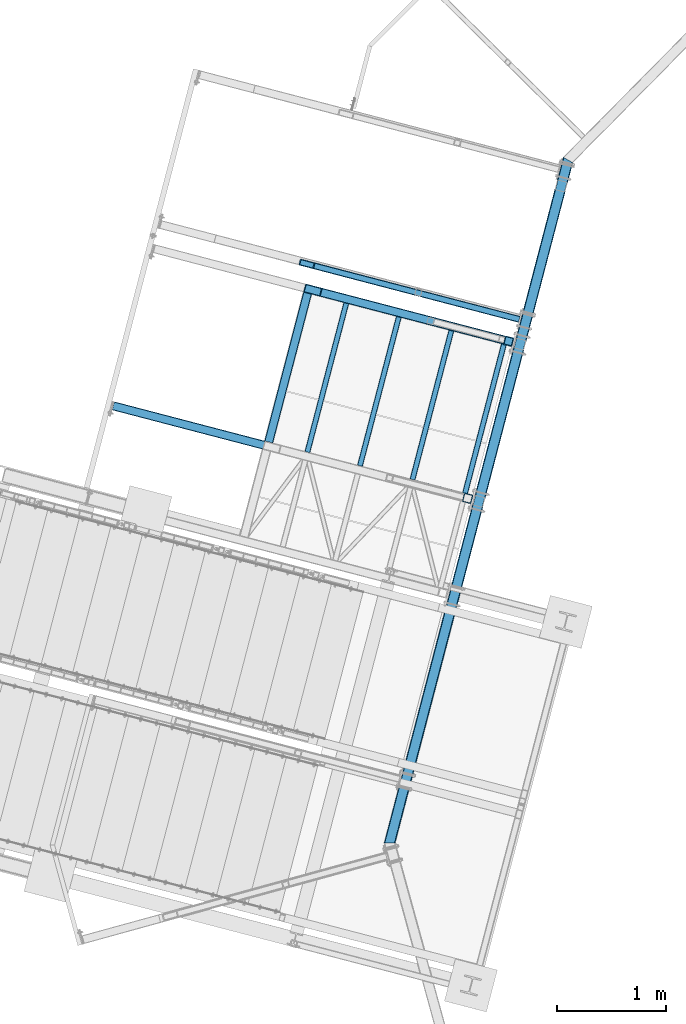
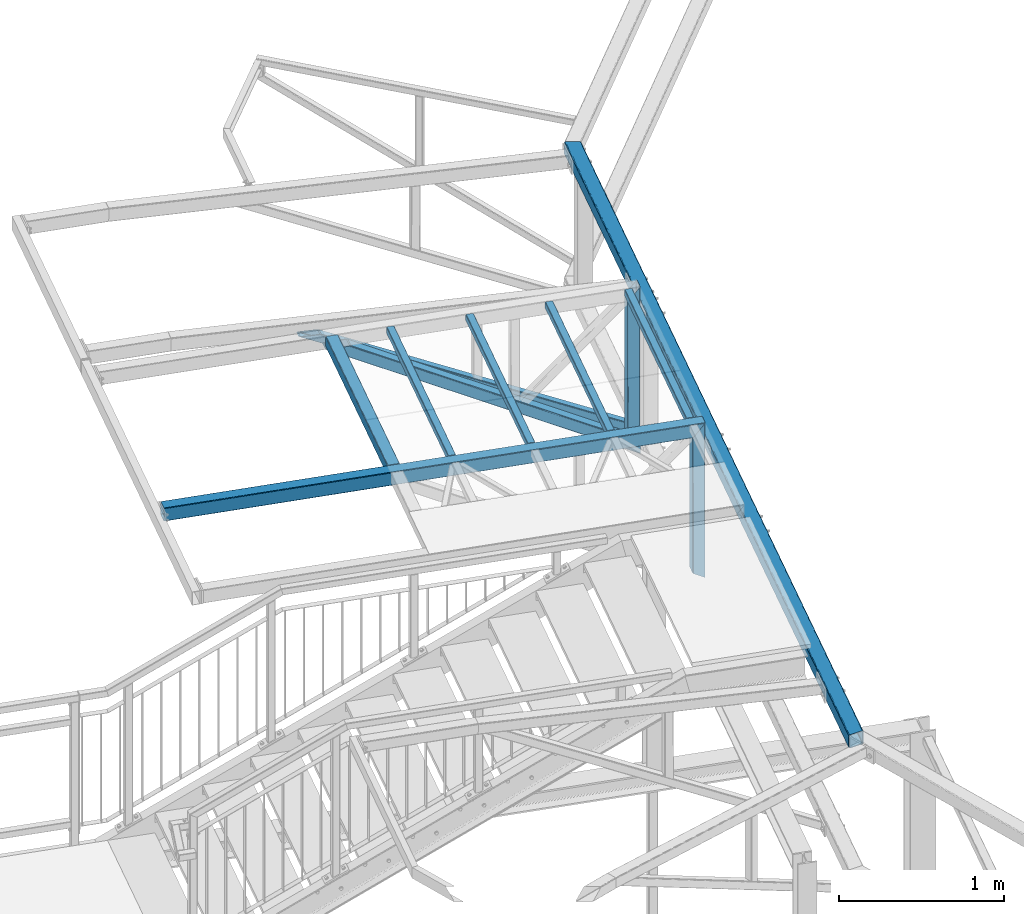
# One storey, part 48 of 169: 11 discrete accessories, 3 elements without a shape of their own.
"""IFC2X3 building model written with IfcOpenShell, lengths in millimetres."""

from ifc_helpers import new_model, si_unit, frame, origin_with_axes, origin_2d_with_axis, place, context, subcontext, project, spatial, hollow_rectangle, extrude, clip, halfspace, material, type_object, element, aggregate, save


model = new_model("IFC2X3")

# Units and contexts
model_context = context("Model", 3, precision=1e-05, world=origin_with_axes())
body_context = subcontext(model_context, "Body", "Model", "MODEL_VIEW")
ifc_project = project(units=[si_unit("LENGTHUNIT", "METRE", prefix="MILLI"), si_unit("AREAUNIT", "SQUARE_METRE"), si_unit("VOLUMEUNIT", "CUBIC_METRE"), si_unit("MASSUNIT", "GRAM", prefix="KILO"), si_unit("TIMEUNIT", "SECOND"), si_unit("PLANEANGLEUNIT", "RADIAN"), si_unit("SOLIDANGLEUNIT", "STERADIAN"), si_unit("THERMODYNAMICTEMPERATUREUNIT", "DEGREE_CELSIUS"), si_unit("LUMINOUSINTENSITYUNIT", "LUMEN")], contexts=[model_context])

# Site, building, storey
site_placement = place(None, origin_with_axes())
site = spatial("IfcSite", under=ifc_project, at=site_placement, Name="Undefined", CompositionType="ELEMENT")
building_placement = place(site_placement, origin_with_axes())
building = spatial("IfcBuilding", under=site, at=building_placement, Name="Undefined", CompositionType="ELEMENT")
storey_placement = place(building_placement, origin_with_axes())
storey = spatial("IfcBuildingStorey", under=building, at=storey_placement, Name="Undefined", CompositionType="ELEMENT", Elevation=0.0)

# Assembly, discrete accessories
assembly_1_placement = place(storey_placement, origin_with_axes())
assembly_1 = element("IfcElementAssembly", 1, at=assembly_1_placement, inside=storey, Name="Steel Assembly", AssemblyPlace="NOTDEFINED", PredefinedType="RIGID_FRAME")
ifc_material_1 = material(Name="STEEL/S355")
discrete_accessory_type = type_object("IfcDiscreteAccessoryType", Name="BEAM")
discrete_accessory_1_placement = place(assembly_1_placement, frame((-24045.0696662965, 10460.2891541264, 14000.4655106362), z_axis=(-3.45692487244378e-05, -0.000132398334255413, -0.999999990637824), x_axis=(-0.252628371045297, -0.967563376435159, 0.000136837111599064)))
discrete_accessory_1 = element("IfcDiscreteAccessory", 2, at=discrete_accessory_1_placement, type_object=discrete_accessory_type, material=ifc_material_1, Name="BEAM", ObjectType="SHS50*3", context=body_context, shape_type="Clipping", body=[
    clip(clip(extrude(hollow_rectangle(XDim=50.0, YDim=50.0, WallThickness=3.0, InnerFilletRadius=3.0, OuterFilletRadius=6.0, at=origin_2d_with_axis()), frame((1414.99924654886, 5.59431752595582e-14, -1.81902775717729e-12), z_axis=(-1.0, -3.46944695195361e-18, -1.38777878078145e-17), x_axis=(1.73472347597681e-18, -1.0, 0.0)), (0.0, 0.0, 1.0), 1415.0), halfspace(frame((1414.99924601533, 2.01653165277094e-08, -999.999999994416), z_axis=(-1.0, -3.46944695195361e-18, -1.38777878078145e-17), x_axis=(0.0, 1.0, 0.0)), True)), halfspace(frame((9.08307811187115e-08, -1.23909558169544e-08, -1000.00000000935), z_axis=(1.0, 0.0, 0.0), x_axis=(1.73472347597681e-18, -1.0, 0.0)), True)),
])
discrete_accessory_2_placement = place(assembly_1_placement, frame((-24528.8513593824, 10586.6033386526, 14000.4506976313), z_axis=(-3.45692487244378e-05, -0.000132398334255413, -0.999999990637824), x_axis=(-0.252628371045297, -0.967563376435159, 0.000136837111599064)))
discrete_accessory_2 = element("IfcDiscreteAccessory", 3, at=discrete_accessory_2_placement, type_object=discrete_accessory_type, material=ifc_material_1, Name="BEAM", ObjectType="SHS50*3", context=body_context, shape_type="Clipping", body=[
    clip(clip(extrude(hollow_rectangle(XDim=50.0, YDim=50.0, WallThickness=3.0, InnerFilletRadius=3.0, OuterFilletRadius=6.0, at=origin_2d_with_axis()), frame((1414.99924654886, 5.59431752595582e-14, -1.81902775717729e-12), z_axis=(-1.0, -3.46944695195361e-18, -1.38777878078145e-17), x_axis=(1.73472347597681e-18, -1.0, 0.0)), (0.0, 0.0, 1.0), 1415.0), halfspace(frame((1414.99924601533, 2.01653165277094e-08, -999.999999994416), z_axis=(-1.0, -3.46944695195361e-18, -1.38777878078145e-17), x_axis=(0.0, 1.0, 0.0)), True)), halfspace(frame((9.08307811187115e-08, -1.23909558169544e-08, -1000.00000000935), z_axis=(1.0, 0.0, 0.0), x_axis=(1.73472347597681e-18, -1.0, 0.0)), True)),
])
discrete_accessory_3_placement = place(assembly_1_placement, frame((-23561.2879732, 10333.9749696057, 14000.4803236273), z_axis=(-3.45692487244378e-05, -0.000132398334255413, -0.999999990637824), x_axis=(-0.252628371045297, -0.967563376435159, 0.000136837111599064)))
discrete_accessory_3 = element("IfcDiscreteAccessory", 4, at=discrete_accessory_3_placement, type_object=discrete_accessory_type, material=ifc_material_1, Name="BEAM", ObjectType="SHS50*3", context=body_context, shape_type="Clipping", body=[
    clip(clip(extrude(hollow_rectangle(XDim=50.0, YDim=50.0, WallThickness=3.0, InnerFilletRadius=3.0, OuterFilletRadius=6.0, at=origin_2d_with_axis()), frame((1414.99924654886, 5.59431752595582e-14, -1.81902775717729e-12), z_axis=(-1.0, -3.46944695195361e-18, -1.38777878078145e-17), x_axis=(1.73472347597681e-18, -1.0, 0.0)), (0.0, 0.0, 1.0), 1415.0), halfspace(frame((1414.99924601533, 2.01653165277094e-08, -999.999999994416), z_axis=(-1.0, -3.46944695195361e-18, -1.38777878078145e-17), x_axis=(0.0, 1.0, 0.0)), True)), halfspace(frame((9.08307811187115e-08, -1.23909558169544e-08, -1000.00000000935), z_axis=(1.0, 0.0, 0.0), x_axis=(1.73472347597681e-18, -1.0, 0.0)), True)),
])
discrete_accessory_4_placement = place(assembly_1_placement, frame((-23077.5062801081, 10207.660785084, 14000.4951366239), z_axis=(-3.45692487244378e-05, -0.000132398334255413, -0.999999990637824), x_axis=(-0.252628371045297, -0.967563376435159, 0.000136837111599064)))
discrete_accessory_4 = element("IfcDiscreteAccessory", 5, at=discrete_accessory_4_placement, type_object=discrete_accessory_type, material=ifc_material_1, Name="BEAM", ObjectType="SHS50*3", context=body_context, shape_type="Clipping", body=[
    clip(clip(extrude(hollow_rectangle(XDim=50.0, YDim=50.0, WallThickness=3.0, InnerFilletRadius=3.0, OuterFilletRadius=6.0, at=origin_2d_with_axis()), frame((1414.99924654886, 5.59431752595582e-14, -1.81902775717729e-12), z_axis=(-1.0, -3.46944695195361e-18, -1.38777878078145e-17), x_axis=(1.73472347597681e-18, -1.0, 0.0)), (0.0, 0.0, 1.0), 1415.0), halfspace(frame((1414.99924601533, 2.01653165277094e-08, -999.999999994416), z_axis=(-1.0, -3.46944695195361e-18, -1.38777878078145e-17), x_axis=(0.0, 1.0, 0.0)), True)), halfspace(frame((9.08307811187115e-08, -1.23909558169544e-08, -1000.00000000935), z_axis=(1.0, 0.0, 0.0), x_axis=(1.73472347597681e-18, -1.0, 0.0)), True)),
])
discrete_accessory_5_placement = place(assembly_1_placement, frame((-23411.2199844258, 8790.88738533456, 13091.6952801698), z_axis=(5.90399999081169e-06, 0.000139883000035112, 0.999999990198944), x_axis=(-0.252628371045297, -0.967563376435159, 0.000136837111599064)))
discrete_accessory_5 = element("IfcDiscreteAccessory", 6, at=discrete_accessory_5_placement, type_object=discrete_accessory_type, material=ifc_material_1, Name="BEAM", ObjectType="SHS80*4", context=body_context, shape_type="Clipping", body=[
    clip(clip(extrude(hollow_rectangle(XDim=80.0, YDim=80.0, WallThickness=4.0, InnerFilletRadius=4.0, OuterFilletRadius=8.0, at=origin_2d_with_axis()), frame((0.0, 3.6379852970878e-12, 957.754374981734), z_axis=(-2.54700353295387e-10, 0.0, -1.0), x_axis=(0.0, 1.0, 0.0)), (0.0, 0.0, 1.0), 1222.47), halfspace(frame((-2.51643541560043e-08, 40.0000000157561, 934.000000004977), z_axis=(-1.16900541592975e-10, 0.780868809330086, -0.624695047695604), x_axis=(-1.0, -3.46944695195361e-18, -1.38777878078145e-17)), True)), halfspace(frame((999.999999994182, 19.9381658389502, -202.427333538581), z_axis=(1.62111313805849e-10, 0.498454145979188, 0.866916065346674), x_axis=(3.43917918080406e-10, -0.866916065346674, 0.498454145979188)), True)),
])
discrete_accessory_6_placement = place(assembly_1_placement, frame((-23367.6744126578, 8779.64276524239, 13975.6966046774), z_axis=(-5.90399999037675e-06, -0.000139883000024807, -0.999999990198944), x_axis=(-0.967563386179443, 0.252628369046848, -2.9626000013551e-05)))
discrete_accessory_6 = element("IfcDiscreteAccessory", 7, at=discrete_accessory_6_placement, type_object=discrete_accessory_type, material=ifc_material_1, Name="BEAM", ObjectType="RHS100*80*4", context=body_context, shape_type="Clipping", body=[
    clip(clip(extrude(hollow_rectangle(XDim=80.0, YDim=100.0, WallThickness=4.0, InnerFilletRadius=4.0, OuterFilletRadius=8.0, at=origin_2d_with_axis()), frame((3416.99555623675, 1.37553656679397e-12, -1.15772312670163e-17), z_axis=(-1.0, -3.46944695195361e-18, -1.38777878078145e-17), x_axis=(1.73472347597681e-18, -1.0, 0.0)), (0.0, 0.0, 1.0), 3451.9), halfspace(frame((3416.99555607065, 9.35551724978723e-09, 50.0000000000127), z_axis=(-1.0, -3.46944695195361e-18, -1.38777878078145e-17), x_axis=(1.73472347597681e-18, -1.0, 0.0)), True)), halfspace(frame((5.00000023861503, 6.82121026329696e-11, -50.0000000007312), z_axis=(-0.780868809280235, -4.01402798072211e-12, 0.624695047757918), x_axis=(0.0, 1.0, 0.0)), False)),
])
discrete_accessory_7_placement = place(assembly_1_placement, frame((-23033.5407603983, 10237.3939038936, 13091.4907089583), z_axis=(5.90399999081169e-06, 0.000139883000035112, 0.999999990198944), x_axis=(-0.252628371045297, -0.967563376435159, 0.000136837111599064)))
discrete_accessory_7 = element("IfcDiscreteAccessory", 8, at=discrete_accessory_7_placement, type_object=discrete_accessory_type, material=ifc_material_1, Name="BEAM", ObjectType="SHS80*4", context=body_context, shape_type="Clipping", body=[
    clip(clip(extrude(hollow_rectangle(XDim=80.0, YDim=80.0, WallThickness=4.0, InnerFilletRadius=4.0, OuterFilletRadius=8.0, at=origin_2d_with_axis()), frame((0.0, 3.6379852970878e-12, 957.754374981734), z_axis=(-2.54700353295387e-10, 0.0, -1.0), x_axis=(0.0, 1.0, 0.0)), (0.0, 0.0, 1.0), 1222.47), halfspace(frame((-2.51643541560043e-08, 40.0000000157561, 934.000000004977), z_axis=(-1.16900541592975e-10, 0.780868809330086, -0.624695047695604), x_axis=(-1.0, -3.46944695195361e-18, -1.38777878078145e-17)), True)), halfspace(frame((999.999999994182, 19.9381658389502, -202.427333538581), z_axis=(1.62111313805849e-10, 0.498454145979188, 0.866916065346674), x_axis=(3.43917918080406e-10, -0.866916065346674, 0.498454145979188)), True)),
])
discrete_accessory_8_placement = place(assembly_1_placement, frame((-22959.1302592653, 10217.9257229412, 12810.1696327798), z_axis=(-0.482291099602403, 0.125802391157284, -0.866930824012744), x_axis=(-0.838793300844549, 0.219077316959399, 0.498428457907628)))
discrete_accessory_8 = element("IfcDiscreteAccessory", 9, at=discrete_accessory_8_placement, type_object=discrete_accessory_type, material=ifc_material_1, Name="BEAM", ObjectType="SHS80*4", context=body_context, shape_type="Clipping", body=[
    clip(clip(extrude(hollow_rectangle(XDim=80.0, YDim=80.0, WallThickness=4.0, InnerFilletRadius=4.0, OuterFilletRadius=8.0, at=origin_2d_with_axis()), frame((2365.31932809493, -1.42091715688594e-12, -1.36424205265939e-12), z_axis=(-1.0, -3.46944695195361e-18, -1.38777878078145e-17), x_axis=(1.73472347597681e-18, -1.0, 0.0)), (0.0, 0.0, 1.0), 2450.45), halfspace(frame((3179.86809858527, -2.91447577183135e-09, 541.799949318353), z_axis=(-0.498454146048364, 1.6126674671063e-10, 0.866916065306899), x_axis=(1.73472347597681e-18, -1.0, 0.0)), True)), halfspace(frame((42.6242954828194, -38.6984627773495, 1.33514276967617e-07), z_axis=(0.86687176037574, 6.4399397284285e-09, 0.498531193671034), x_axis=(-0.498531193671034, 4.97002474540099e-11, 0.86687176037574)), True)),
])
discrete_accessory_9_placement = place(assembly_1_placement, frame((-24874.8072584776, 10718.2711726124, 13985.433136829), z_axis=(-3.45692487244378e-05, -0.000132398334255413, -0.999999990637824), x_axis=(-0.252628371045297, -0.967563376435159, 0.000136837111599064)))
discrete_accessory_9 = element("IfcDiscreteAccessory", 10, at=discrete_accessory_9_placement, type_object=discrete_accessory_type, material=ifc_material_1, Name="BEAM", ObjectType="SHS80*4", context=body_context, shape_type="Clipping", body=[
    clip(clip(extrude(hollow_rectangle(XDim=80.0, YDim=80.0, WallThickness=4.0, InnerFilletRadius=4.0, OuterFilletRadius=8.0, at=origin_2d_with_axis()), frame((1455.00000039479, -3.72969972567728e-12, 0.0), z_axis=(-1.0, -3.46944695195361e-18, -1.38777878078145e-17), x_axis=(1.73472347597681e-18, -1.0, 0.0)), (0.0, 0.0, 1.0), 1415.0), halfspace(frame((1454.99999985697, -2.54804035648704e-08, -999.999999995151), z_axis=(-1.0, -3.46944695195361e-18, -1.38777878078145e-17), x_axis=(0.0, 1.0, 0.0)), True)), halfspace(frame((40.0007539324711, 3.95848473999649e-08, -1000.0000000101), z_axis=(1.0, 0.0, 0.0), x_axis=(1.73472347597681e-18, -1.0, 0.0)), True)),
])
aggregate(assembly_1, [discrete_accessory_1, discrete_accessory_2, discrete_accessory_3, discrete_accessory_4, discrete_accessory_5, discrete_accessory_6, discrete_accessory_7, discrete_accessory_8, discrete_accessory_9])

# Assembly, discrete accessory
assembly_2_placement = place(storey_placement, origin_with_axes())
assembly_2 = element("IfcElementAssembly", 11, at=assembly_2_placement, inside=storey, Name="Steel Assembly", AssemblyPlace="NOTDEFINED", PredefinedType="RIGID_FRAME")
ifc_material_2 = material(Name="STEEL/S235")
discrete_accessory_10_placement = place(assembly_2_placement, frame((-24828.9227491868, 10933.646001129, 13847.9781888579), z_axis=(0.252583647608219, 0.967575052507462, -0.000136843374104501), x_axis=(0.856735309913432, -0.223714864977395, -0.464710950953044)))
discrete_accessory_10 = element("IfcDiscreteAccessory", 12, at=discrete_accessory_10_placement, type_object=discrete_accessory_type, material=ifc_material_2, Name="BEAM", ObjectType="SHS60*4", context=body_context, shape_type="Clipping", body=[
    clip(clip(extrude(hollow_rectangle(XDim=60.0, YDim=60.0, WallThickness=4.0, InnerFilletRadius=4.0, OuterFilletRadius=8.0, at=origin_2d_with_axis()), frame((2317.7574352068, 1.71874972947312e-12, -7.16495643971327e-14), z_axis=(-1.0, -3.46944695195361e-18, -1.38777878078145e-17), x_axis=(1.73472347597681e-18, -1.0, 0.0)), (0.0, 0.0, 1.0), 2497.57), halfspace(frame((2194.40013224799, -29.9999199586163, 0.000485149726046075), z_axis=(-0.885421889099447, 0.464788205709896, 4.62227571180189e-05), x_axis=(-4.75817847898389e-05, 8.80573826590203e-06, -0.999999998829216)), True)), halfspace(frame((-170.247972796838, 45.3757276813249, 1000.00011465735), z_axis=(0.420020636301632, 0.907514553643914, 2.29337284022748e-06), x_axis=(-0.907514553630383, 0.420020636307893, -4.95571453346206e-06)), True)),
])
aggregate(assembly_2, [discrete_accessory_10])

assembly_3_placement = place(storey_placement, origin_with_axes())
assembly_3 = element("IfcElementAssembly", 13, at=assembly_3_placement, inside=storey, Name="Steel Assembly", AssemblyPlace="NOTDEFINED", PredefinedType="RIGID_FRAME")
discrete_accessory_11_placement = place(assembly_3_placement, frame((-22483.6709006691, 11919.9887714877, 13831.4867103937), z_axis=(-8.00909999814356e-05, 0.000162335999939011, 0.999999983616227), x_axis=(-0.252628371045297, -0.967563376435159, 0.000136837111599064)))
discrete_accessory_11 = element("IfcDiscreteAccessory", 14, at=discrete_accessory_11_placement, type_object=discrete_accessory_type, material=ifc_material_2, Name="BEAM", ObjectType="SHS100*5", context=body_context, shape_type="Clipping", body=[
    clip(clip(extrude(hollow_rectangle(XDim=100.0, YDim=100.0, WallThickness=5.0, InnerFilletRadius=5.0, OuterFilletRadius=10.0, at=origin_2d_with_axis()), frame((6561.29510908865, 1.59191692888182e-13, -1.81916724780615e-12), z_axis=(-1.0, -3.46944695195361e-18, -1.38777878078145e-17), x_axis=(1.73472347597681e-18, -1.0, 0.0)), (0.0, 0.0, 1.0), 6597.94), halfspace(frame((6524.63734068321, -50.0314429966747, 0.0280555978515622), z_axis=(-0.965956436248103, -0.258704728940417, 0.000162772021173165), x_axis=(-2.76505488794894e-10, -0.000629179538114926, -0.999999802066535)), True)), halfspace(frame((26.8308375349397, 50.0591377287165, -0.0664504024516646), z_axis=(0.96591568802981, -0.258856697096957, 0.000306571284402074), x_axis=(-5.42504494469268e-11, -0.00118432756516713, -0.999999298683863)), True)),
])
aggregate(assembly_3, [discrete_accessory_11])

save(model, "model.ifc")
